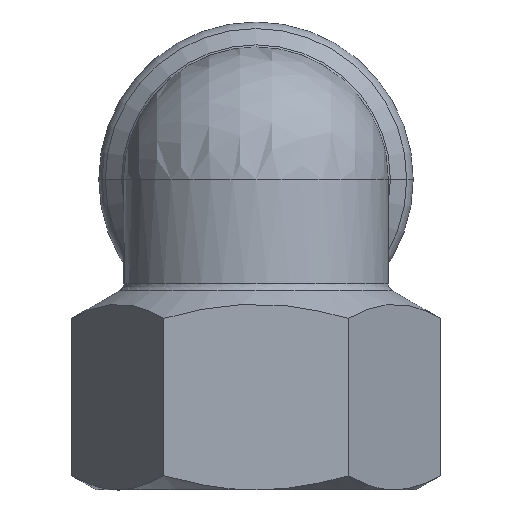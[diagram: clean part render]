
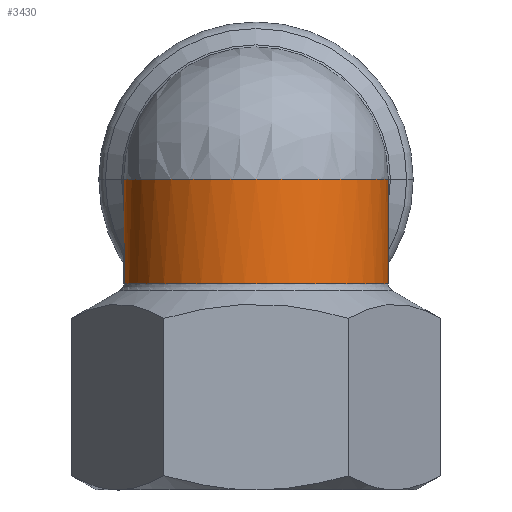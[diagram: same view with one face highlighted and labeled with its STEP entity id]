
A CAD part, left-side view. The second image highlights one B-rep face of the part: STEP entity #3430.
In plain terms, the highlighted cylindrical face has radius 15.75 mm (diameter 31.5 mm), a partial arc.
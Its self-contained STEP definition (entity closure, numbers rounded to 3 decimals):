
#2790=CARTESIAN_POINT('',(38.369,-60.536,37.));
#2800=VERTEX_POINT('',#2790);
#2810=CARTESIAN_POINT('',(38.369,-92.036,37.));
#2820=VERTEX_POINT('',#2810);
#2850=CARTESIAN_POINT('',(38.369,-76.286,37.));
#2860=DIRECTION('',(0.,0.,1.));
#2870=DIRECTION('',(-1.,0.,0.));
#2880=AXIS2_PLACEMENT_3D('',#2850,#2860,#2870);
#2890=CIRCLE('',#2880,15.75);
#2900=EDGE_CURVE('',#2800,#2820,#2890,.T.);
#3150=CARTESIAN_POINT('',(38.369,-76.286,24.));
#3160=DIRECTION('',(0.,0.,1.));
#3170=DIRECTION('',(1.,0.,0.));
#3180=AXIS2_PLACEMENT_3D('',#3150,#3160,#3170);
#3190=CYLINDRICAL_SURFACE('',#3180,15.75);
#3200=ORIENTED_EDGE('',*,*,#2900,.F.);
#3210=CARTESIAN_POINT('',(38.369,-76.286,37.));
#3220=DIRECTION('',(0.707,0.,
0.707));
#3230=DIRECTION('',(-0.707,0.,
0.707));
#3240=AXIS2_PLACEMENT_3D('',#3210,#3220,#3230);
#3250=ELLIPSE('',#3240,22.274,15.75);
#3260=CARTESIAN_POINT('',(50.792,-85.968,
24.577));
#3270=VERTEX_POINT('',#3260);
#3280=EDGE_CURVE('',#2820,#3270,#3250,.T.);
#3290=ORIENTED_EDGE('',*,*,#3280,.F.);
#3300=CARTESIAN_POINT('',(38.369,-76.286,24.577));
#3310=DIRECTION('',(0.,0.,-1.));
#3320=DIRECTION('',(-1.,0.,0.));
#3330=AXIS2_PLACEMENT_3D('',#3300,#3310,#3320);
#3340=CIRCLE('',#3330,15.75);
#3350=CARTESIAN_POINT('',(50.792,-66.604,
24.577));
#3360=VERTEX_POINT('',#3350);
#3370=EDGE_CURVE('',#3270,#3360,#3340,.T.);
#3380=ORIENTED_EDGE('',*,*,#3370,.F.);
#3390=EDGE_CURVE('',#3360,#2800,#3250,.T.);
#3400=ORIENTED_EDGE('',*,*,#3390,.F.);
#3410=EDGE_LOOP('',(#3400,#3380,#3290,#3200));
#3420=FACE_OUTER_BOUND('',#3410,.T.);
#3430=ADVANCED_FACE('',(#3420),#3190,.T.);
